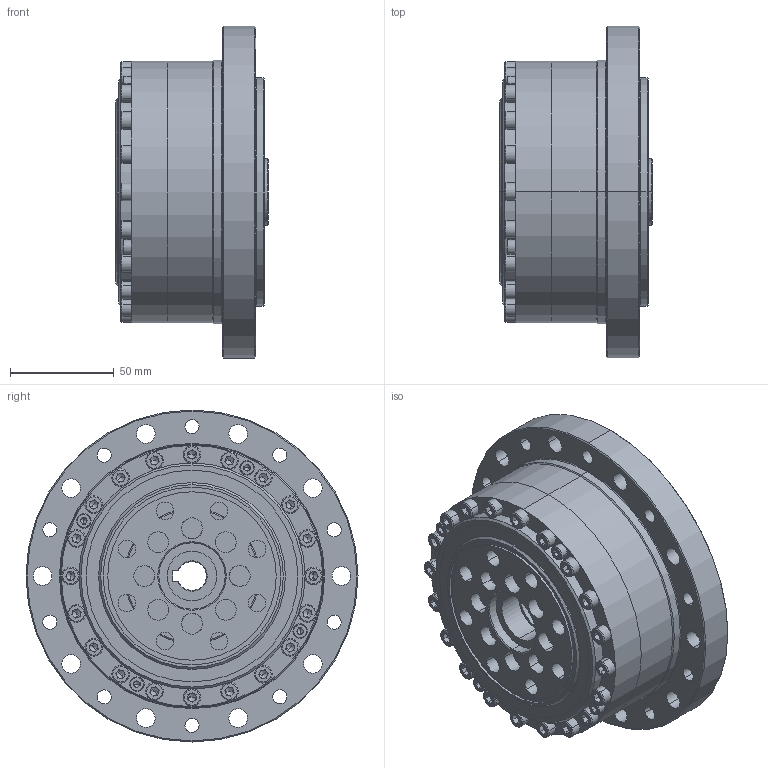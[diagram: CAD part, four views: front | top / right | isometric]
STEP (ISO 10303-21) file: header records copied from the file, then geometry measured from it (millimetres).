
FILE_DESCRIPTION (( 'STEP AP203' ), '1' );
FILE_NAME ('LCSG-40-XXX-C-II.STEP', '2017-08-28T06:36:41', ( 'Windows 蚚誧' ), ( 'Users' ), 'SwSTEP 2.0', 'SolidWorks 2013', '' );
FILE_SCHEMA (( 'CONFIG_CONTROL_DESIGN' ));
Length unit declared in the file: millimetre
Products named in the file (18): RZC-40G内外圈+钢球; socket head cap screw_din_DIN 912 M12 x 25 --- 25N; RZC-40悵厥殤; socket head cap screw_din_内六角圆柱头螺钉M4 x 16; 柔性轴承RZC-40G; socket head cap screw_din_内六角圆柱头螺钉M5 x 25; 疏楷汜ん40G-II; LJ-40G-II; LCSG-40-XXX-P01-II; LCSG-40-XXX-C-II; SZ-40G-II; LCSG-40-XXX-P02-II; LCSG-40-XXX-P03-II; LCSG-40-XXX-P05-II; DB-40G-II; LCSG-40-XXX-P04-II; 粣噤32; 15Z-901026
Assembly tree (46 placements, depth 4):
  LCSG-40-XXX-C-II
    LCSG-40-XXX-P01-II
    LCSG-40-XXX-P02-II
    LCSG-40-XXX-P05-II
    LCSG-40-XXX-P04-II
    15Z-901026
    socket head cap screw_din_DIN 912 M12 x 25 --- 25N  x8
    socket head cap screw_din_内六角圆柱头螺钉M4 x 16  x4
    socket head cap screw_din_内六角圆柱头螺钉M5 x 25  x20
    疏楷汜ん40G-II
      LJ-40G-II
      SZ-40G-II
      LCSG-40-XXX-P03-II
      DB-40G-II
      粣噤32
      柔性轴承RZC-40G
        RZC-40G内外圈+钢球
        RZC-40悵厥殤
Bounding box: 73.5 x 160 x 160 mm (x, y, z)
Volume: 685713.6 mm3; surface area: 311214.9 mm2
Topology: 69 solids, 69 shells, 1640 faces, 3858 edges, 2327 vertices
Faces by surface type: plane 638, cylinder 541, cone 247, torus 168, sphere 46
Entity records: 28287 total; most frequent: DIRECTION 5007, CARTESIAN_POINT 4332, ORIENTED_EDGE 4030, AXIS2_PLACEMENT_3D 2120, EDGE_CURVE 2015, VERTEX_POINT 1301, CIRCLE 1212, EDGE_LOOP 1102
